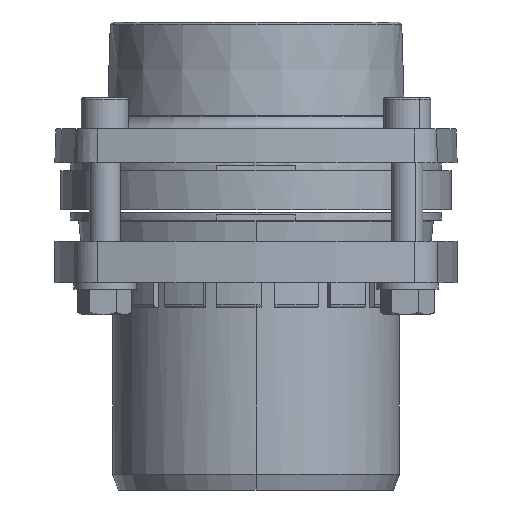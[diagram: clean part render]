
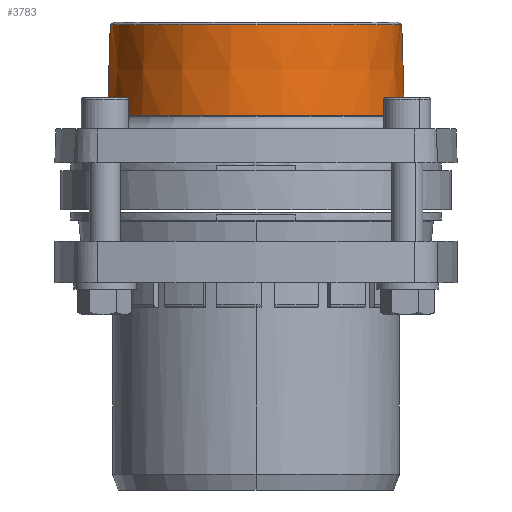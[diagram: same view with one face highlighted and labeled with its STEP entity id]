
A CAD part, front view. The second image highlights one B-rep face of the part: STEP entity #3783.
In plain terms, the highlighted conical face has half-angle 1.788 degrees and reference radius 56.991 mm.
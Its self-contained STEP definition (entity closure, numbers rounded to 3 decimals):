
#929 = CIRCLE ( 'NONE', #934, 55.898 ) ;
#931 = CIRCLE ( 'NONE', #936, 56.991 ) ;
#934 = AXIS2_PLACEMENT_3D ( 'NONE', #13386, #13387, #13388 ) ;
#936 = AXIS2_PLACEMENT_3D ( 'NONE', #13389, #13390, #13391 ) ;
#2258 = EDGE_CURVE ( 'NONE', #5925, #5980, #929, .T. ) ;
#2259 = EDGE_CURVE ( 'NONE', #5918, #5987, #931, .T. ) ;
#3558 = CONICAL_SURFACE ( 'NONE', #3559, 56.991, 0.031 ) ;
#3559 = AXIS2_PLACEMENT_3D ( 'NONE', #10455, #10453, #10450 ) ;
#3783 = ADVANCED_FACE ( 'NONE', ( #10452 ), #3558, .T. ) ;
#5140 = EDGE_CURVE ( 'NONE', #5980, #5987, #8323, .T. ) ;
#5142 = EDGE_CURVE ( 'NONE', #5925, #5918, #8325, .T. ) ;
#5660 = EDGE_LOOP ( 'NONE', ( #12827, #12828, #12829, #12830 ) ) ;
#5918 = VERTEX_POINT ( 'NONE', #8606 ) ;
#5925 = VERTEX_POINT ( 'NONE', #8613 ) ;
#5980 = VERTEX_POINT ( 'NONE', #8668 ) ;
#5987 = VERTEX_POINT ( 'NONE', #8675 ) ;
#8320 = CARTESIAN_POINT ( 'NONE',  ( -56.991, 0., 37. ) ) ;
#8323 = LINE ( 'NONE', #8320, #11740 ) ;
#8325 = LINE ( 'NONE', #8326, #11743 ) ;
#8326 = CARTESIAN_POINT ( 'NONE',  ( 56.991, 0., 37. ) ) ;
#8330 = DIRECTION ( 'NONE',  ( -0.031, 0., -1. ) ) ;
#8334 = DIRECTION ( 'NONE',  ( 0.031, 0., -1. ) ) ;
#8606 = CARTESIAN_POINT ( 'NONE',  ( 56.991, 0., 37. ) ) ;
#8613 = CARTESIAN_POINT ( 'NONE',  ( 55.898, 0., 72. ) ) ;
#8668 = CARTESIAN_POINT ( 'NONE',  ( -55.898, 0., 72. ) ) ;
#8675 = CARTESIAN_POINT ( 'NONE',  ( -56.991, 0., 37. ) ) ;
#10450 = DIRECTION ( 'NONE',  ( -1., 0., 0. ) ) ;
#10452 = FACE_OUTER_BOUND ( 'NONE', #5660, .T. ) ;
#10453 = DIRECTION ( 'NONE',  ( 0., 0., -1. ) ) ;
#10455 = CARTESIAN_POINT ( 'NONE',  ( 0., 0., 37. ) ) ;
#11740 = VECTOR ( 'NONE', #8330, 1000. ) ;
#11743 = VECTOR ( 'NONE', #8334, 1000. ) ;
#12827 = ORIENTED_EDGE ( 'NONE', *, *, #5142, .F. ) ;
#12828 = ORIENTED_EDGE ( 'NONE', *, *, #2258, .T. ) ;
#12829 = ORIENTED_EDGE ( 'NONE', *, *, #5140, .T. ) ;
#12830 = ORIENTED_EDGE ( 'NONE', *, *, #2259, .F. ) ;
#13386 = CARTESIAN_POINT ( 'NONE',  ( 0., 0., 72. ) ) ;
#13387 = DIRECTION ( 'NONE',  ( 0., 0., -1. ) ) ;
#13388 = DIRECTION ( 'NONE',  ( 1., 0., 0. ) ) ;
#13389 = CARTESIAN_POINT ( 'NONE',  ( 0., 0., 37. ) ) ;
#13390 = DIRECTION ( 'NONE',  ( 0., 0., -1. ) ) ;
#13391 = DIRECTION ( 'NONE',  ( -1., 0., 0. ) ) ;
